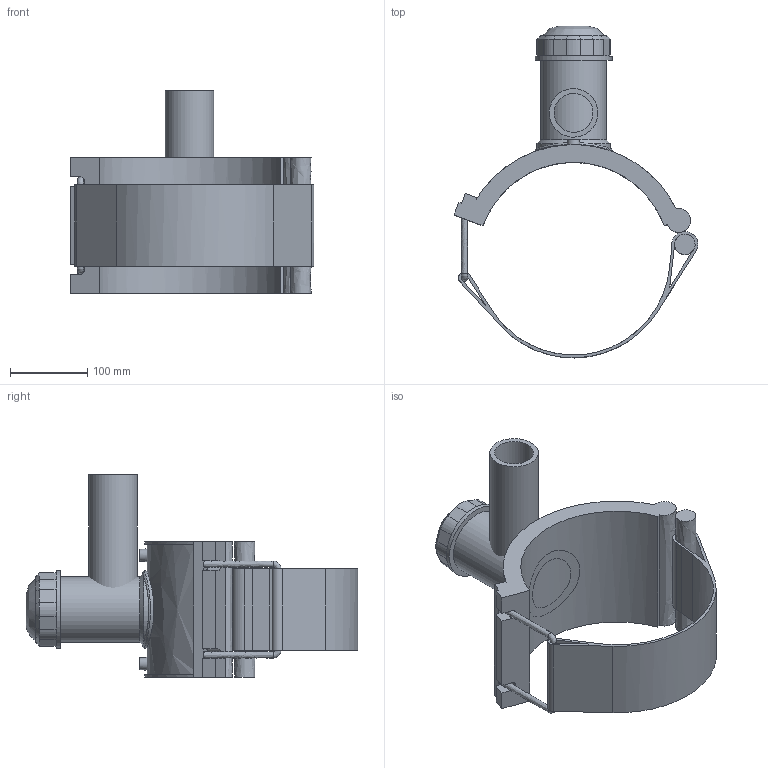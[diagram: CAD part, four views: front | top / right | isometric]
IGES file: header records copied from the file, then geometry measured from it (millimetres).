
Global section: file name: 4963P4250063; native system: Autodesk Inventor 2019; preprocessor: unknown; author: KIM; date: 20220317.113331; units: millimetre
Bounding box: 316.48 x 430.75 x 263 mm (x, y, z)
Volume: 2514689.8 mm3; surface area: 463070.3 mm2
Topology: 3 solids, 3 shells, 118 faces, 297 edges, 193 vertices
Faces by surface type: bspline 118
